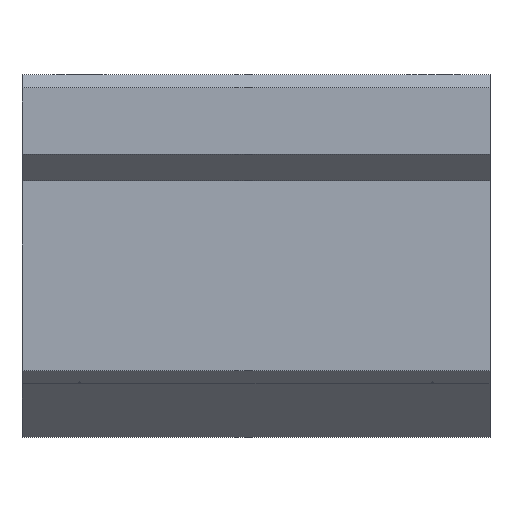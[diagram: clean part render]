
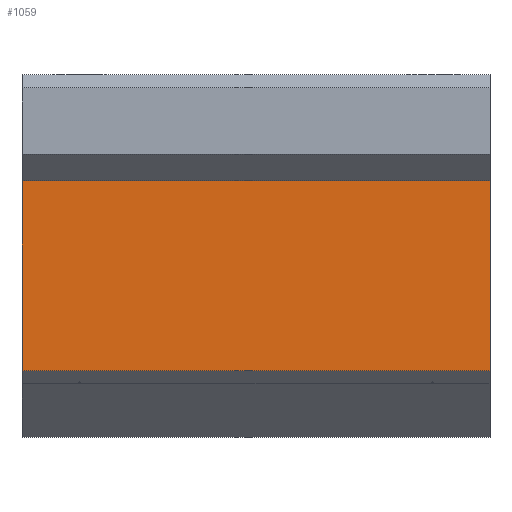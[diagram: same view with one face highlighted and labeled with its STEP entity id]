
A CAD part, top view. The second image highlights one B-rep face of the part: STEP entity #1059.
In plain terms, the highlighted planar face has unit normal (0, 0, 1).
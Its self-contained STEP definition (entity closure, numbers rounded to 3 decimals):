
#2 = LINE ( 'NONE', #13, #1124 ) ;
#6 = VECTOR ( 'NONE', #427, 1000. ) ;
#11 = EDGE_CURVE ( 'NONE', #1544, #697, #509, .T. ) ;
#13 = CARTESIAN_POINT ( 'NONE',  ( 53., 29., 24. ) ) ;
#149 = FACE_OUTER_BOUND ( 'NONE', #1144, .T. ) ;
#160 = CARTESIAN_POINT ( 'NONE',  ( 0., 29., 24. ) ) ;
#268 = DIRECTION ( 'NONE',  ( 0., 0., -1. ) ) ;
#339 = DIRECTION ( 'NONE',  ( -1., 0., 0. ) ) ;
#362 = VECTOR ( 'NONE', #1165, 1000. ) ;
#389 = CARTESIAN_POINT ( 'NONE',  ( 53., 29., 24. ) ) ;
#416 = DIRECTION ( 'NONE',  ( 1., 0., 0. ) ) ;
#427 = DIRECTION ( 'NONE',  ( 0., -1., 0. ) ) ;
#449 = VERTEX_POINT ( 'NONE', #479 ) ;
#479 = CARTESIAN_POINT ( 'NONE',  ( 0., 29., 24. ) ) ;
#487 = ORIENTED_EDGE ( 'NONE', *, *, #11, .F. ) ;
#509 = LINE ( 'NONE', #1554, #362 ) ;
#515 = LINE ( 'NONE', #1049, #741 ) ;
#549 = CARTESIAN_POINT ( 'NONE',  ( 53., 29., 24. ) ) ;
#571 = EDGE_CURVE ( 'NONE', #449, #1011, #1340, .T. ) ;
#585 = ORIENTED_EDGE ( 'NONE', *, *, #906, .F. ) ;
#669 = PLANE ( 'NONE',  #1297 ) ;
#697 = VERTEX_POINT ( 'NONE', #994 ) ;
#741 = VECTOR ( 'NONE', #339, 1000. ) ;
#764 = CARTESIAN_POINT ( 'NONE',  ( 0., 7.5, 24. ) ) ;
#906 = EDGE_CURVE ( 'NONE', #697, #1011, #515, .T. ) ;
#946 = ORIENTED_EDGE ( 'NONE', *, *, #1195, .T. ) ;
#994 = CARTESIAN_POINT ( 'NONE',  ( 53., 7.5, 24. ) ) ;
#1011 = VERTEX_POINT ( 'NONE', #764 ) ;
#1049 = CARTESIAN_POINT ( 'NONE',  ( 53., 7.5, 24. ) ) ;
#1059 = ADVANCED_FACE ( 'NONE', ( #149 ), #669, .F. ) ;
#1073 = DIRECTION ( 'NONE',  ( -1., 0., 0. ) ) ;
#1124 = VECTOR ( 'NONE', #1073, 1000. ) ;
#1144 = EDGE_LOOP ( 'NONE', ( #1447, #585, #487, #946 ) ) ;
#1165 = DIRECTION ( 'NONE',  ( 0., -1., 0. ) ) ;
#1195 = EDGE_CURVE ( 'NONE', #1544, #449, #2, .T. ) ;
#1297 = AXIS2_PLACEMENT_3D ( 'NONE', #549, #268, #416 ) ;
#1340 = LINE ( 'NONE', #160, #6 ) ;
#1447 = ORIENTED_EDGE ( 'NONE', *, *, #571, .T. ) ;
#1544 = VERTEX_POINT ( 'NONE', #389 ) ;
#1554 = CARTESIAN_POINT ( 'NONE',  ( 53., 29., 24. ) ) ;
